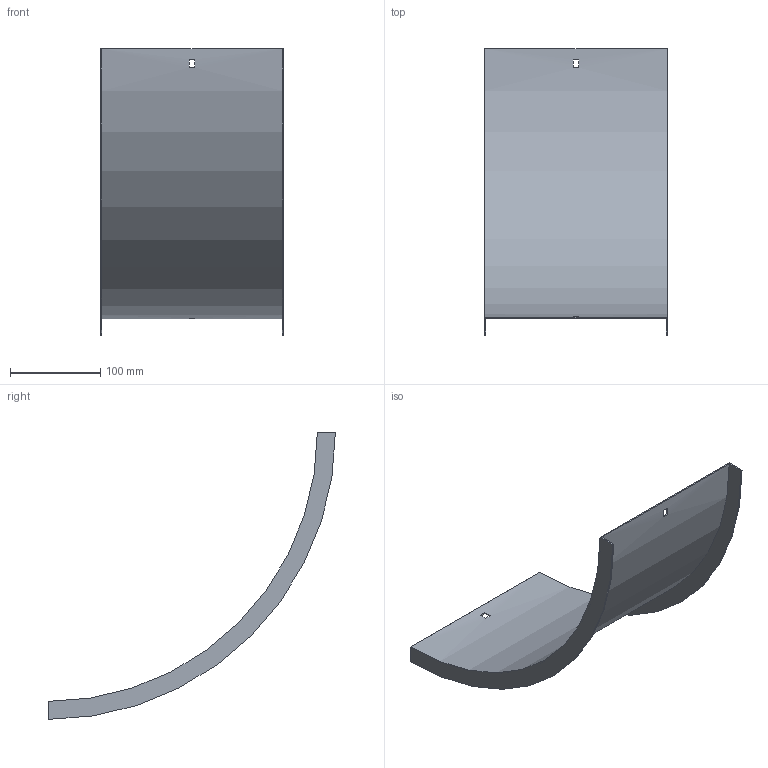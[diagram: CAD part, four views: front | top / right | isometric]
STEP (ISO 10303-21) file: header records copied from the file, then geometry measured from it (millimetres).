
FILE_DESCRIPTION (( 'STEP AP214' ), '1' );
FILE_NAME ('B2X30N3R200X.step', '2025-03-20T09:46:53', ( '' ), ( '' ), 'SwSTEP 2.0', 'SolidWorks 2023', '' );
FILE_SCHEMA (( 'AUTOMOTIVE_DESIGN' ));
Length unit declared in the file: millimetre
Products named in the file (1): B2X30N3R200X
Bounding box: 203 x 318.5 x 318.5 mm (x, y, z)
Volume: 169917.9 mm3; surface area: 228867.7 mm2
Topology: 1 solids, 1 shells, 18 faces, 48 edges, 32 vertices
Faces by surface type: plane 14, cylinder 4
Entity records: 599 total; most frequent: DIRECTION 102, CARTESIAN_POINT 99, ORIENTED_EDGE 96, EDGE_CURVE 48, AXIS2_PLACEMENT_3D 35, VECTOR 32, VERTEX_POINT 32, LINE 32
